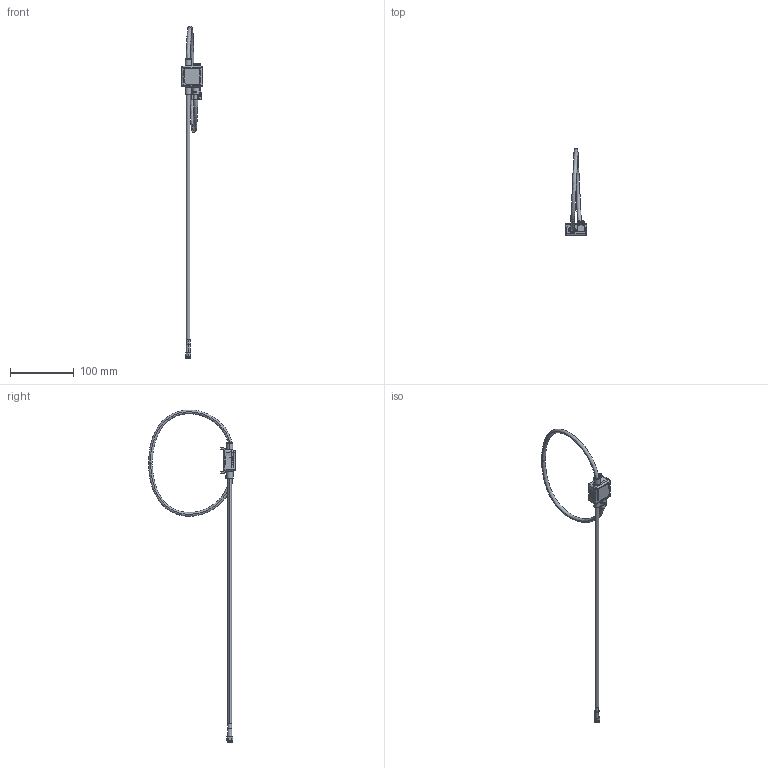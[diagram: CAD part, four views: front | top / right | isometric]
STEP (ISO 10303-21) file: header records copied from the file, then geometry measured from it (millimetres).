
FILE_DESCRIPTION(('Creo Elements/Direct Modeling STEP Export'),'2;1');
FILE_NAME('90.M7.99.025.0.stp','2020-05-14T15:33:44',(''),(''),'Creo Elements/Direct Modeling STEP processor for AP214 (Solid Model)','Creo Elements/Direct Modeling 20.1 10-Mar-2018 (C) Parametric Technology GmbH','');
FILE_SCHEMA(('AUTOMOTIVE_DESIGN { 1 0 10303 214 1 1 1 1 }'));
Products named in the file (2): BLACK_BOX_SMA
Assembly tree (1 placements, depth 2):
  BLACK_BOX_SMA
    BLACK_BOX_SMA
Bounding box: 33.69 x 136.76 x 522.72 mm (x, y, z)
Volume: 44930.7 mm3; surface area: 24700.3 mm2
Topology: 1 solids, 1 shells, 962 faces, 2420 edges, 1462 vertices
Faces by surface type: bspline 332, plane 229, cylinder 219, torus 113, cone 47, extrusion 17, sphere 5
Entity records: 81847 total; most frequent: CARTESIAN_POINT 62305, ORIENTED_EDGE 4826, DIRECTION 2741, EDGE_CURVE 2413, VERTEX_POINT 1462, AXIS2_PLACEMENT_3D 1013, EDGE_LOOP 989, FACE_OUTER_BOUND 962
